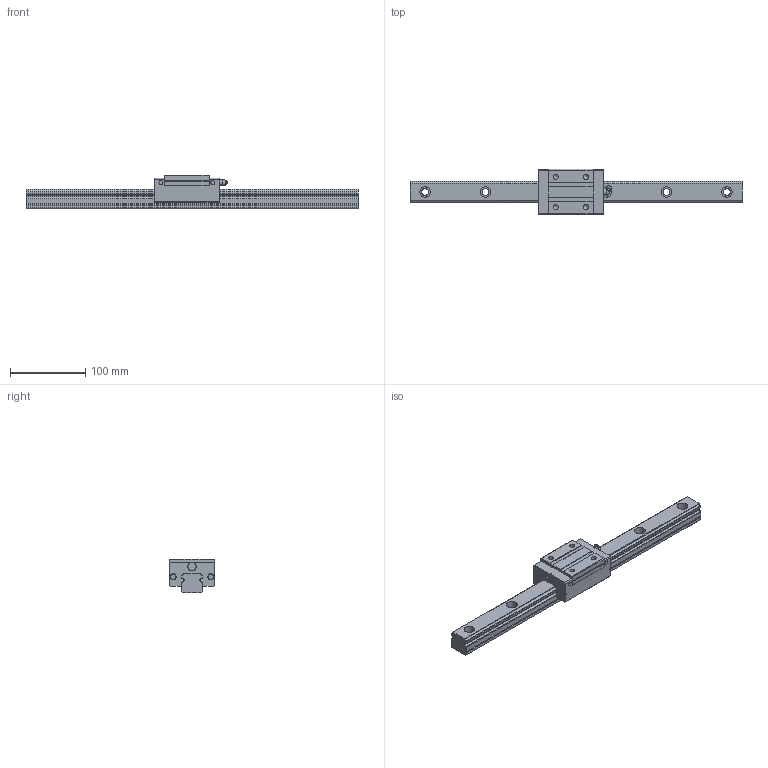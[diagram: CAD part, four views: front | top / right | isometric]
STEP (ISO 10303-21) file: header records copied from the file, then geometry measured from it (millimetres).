
FILE_DESCRIPTION((''),'2;1');
FILE_NAME('D:\製品 (図面)\カタログ用3D\リニアガイド関連\STEP形式\LGHR\LGHR30.stp','2010-06-02T15:52:35',('Tsuchiya'),(''),'Autodesk Inventor 10','Autodesk Inventor 10','');
FILE_SCHEMA(('AUTOMOTIVE_DESIGN { 1 0 10303 214 1 1 1 1 }'));
Length unit declared in the file: millimetre
Products named in the file (3): LGHR30; LGHR301; LGHR302
Assembly tree (2 placements, depth 2):
  LGHR30
    LGHR301
    LGHR302
Bounding box: 440 x 60 x 45 mm (x, y, z)
Volume: 419312.9 mm3; surface area: 82575.3 mm2
Topology: 2 solids, 2 shells, 181 faces, 467 edges, 308 vertices
Faces by surface type: plane 93, cylinder 45, bspline 36, cone 4, sphere 3
Full cylindrical faces by diameter (mm): 5.2 x2, 6.647 x2, 7 x3, 7.7 x1, 8 x2, 11 x1
Entity records: 5776 total; most frequent: CARTESIAN_POINT 1507, DIRECTION 848, ORIENTED_EDGE 824, EDGE_CURVE 412, VERTEX_POINT 298, AXIS2_PLACEMENT_3D 290, VECTOR 268, LINE 268
